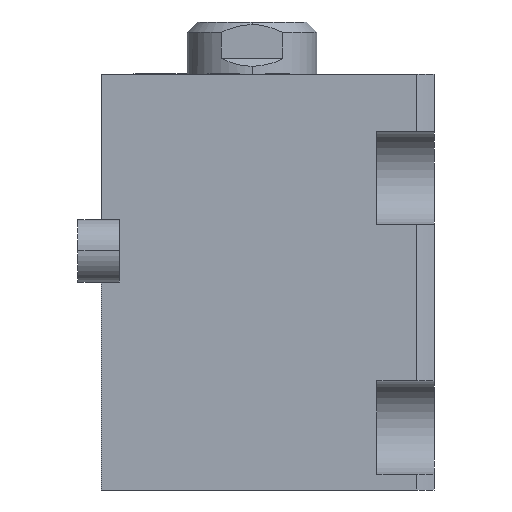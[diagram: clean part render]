
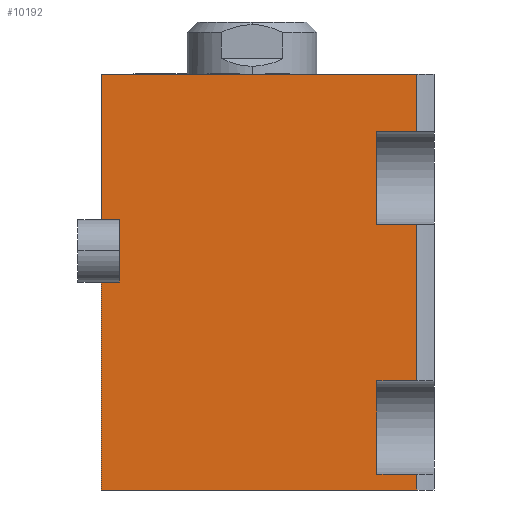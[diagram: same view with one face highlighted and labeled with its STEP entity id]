
A CAD part, left-side view. The second image highlights one B-rep face of the part: STEP entity #10192.
In plain terms, the highlighted planar face has unit normal (-1, 0, 0).
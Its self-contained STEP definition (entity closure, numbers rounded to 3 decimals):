
#29 = VERTEX_POINT ( 'NONE', #8458 ) ;
#158 = EDGE_LOOP ( 'NONE', ( #3144, #5027, #9578, #3182, #8567, #359, #7696, #8804, #2709, #3436, #4284, #1595, #9074, #6535, #1237, #4664 ) ) ;
#167 = CARTESIAN_POINT ( 'NONE',  ( -40., -21., 80. ) ) ;
#272 = VERTEX_POINT ( 'NONE', #1892 ) ;
#316 = CARTESIAN_POINT ( 'NONE',  ( -40., 32., 0. ) ) ;
#359 = ORIENTED_EDGE ( 'NONE', *, *, #1843, .T. ) ;
#474 = EDGE_CURVE ( 'NONE', #4851, #272, #7785, .T. ) ;
#533 = PLANE ( 'NONE',  #8676 ) ;
#560 = VERTEX_POINT ( 'NONE', #316 ) ;
#637 = CARTESIAN_POINT ( 'NONE',  ( -40., 28.5, 40. ) ) ;
#696 = LINE ( 'NONE', #6903, #6765 ) ;
#794 = LINE ( 'NONE', #4638, #9026 ) ;
#799 = LINE ( 'NONE', #8552, #4736 ) ;
#851 = EDGE_CURVE ( 'NONE', #560, #1351, #696, .T. ) ;
#886 = VERTEX_POINT ( 'NONE', #5979 ) ;
#987 = LINE ( 'NONE', #8548, #9480 ) ;
#1175 = CARTESIAN_POINT ( 'NONE',  ( -40., 28.5, 80. ) ) ;
#1180 = CARTESIAN_POINT ( 'NONE',  ( -40., 32., 52. ) ) ;
#1237 = ORIENTED_EDGE ( 'NONE', *, *, #5657, .F. ) ;
#1287 = VECTOR ( 'NONE', #9997, 1000. ) ;
#1338 = DIRECTION ( 'NONE',  ( 0., 1., 0. ) ) ;
#1351 = VERTEX_POINT ( 'NONE', #4200 ) ;
#1369 = EDGE_CURVE ( 'NONE', #6665, #8766, #5484, .T. ) ;
#1438 = VERTEX_POINT ( 'NONE', #7967 ) ;
#1595 = ORIENTED_EDGE ( 'NONE', *, *, #5480, .T. ) ;
#1724 = VECTOR ( 'NONE', #9910, 1000. ) ;
#1743 = CARTESIAN_POINT ( 'NONE',  ( -40., -28.639, 51. ) ) ;
#1843 = EDGE_CURVE ( 'NONE', #9164, #5551, #799, .T. ) ;
#1892 = CARTESIAN_POINT ( 'NONE',  ( -40., -28.639, 69. ) ) ;
#1947 = DIRECTION ( 'NONE',  ( 0., 0., -1. ) ) ;
#2372 = VECTOR ( 'NONE', #2931, 1000. ) ;
#2428 = DIRECTION ( 'NONE',  ( 0., 0., -1. ) ) ;
#2709 = ORIENTED_EDGE ( 'NONE', *, *, #3297, .F. ) ;
#2892 = VECTOR ( 'NONE', #2428, 1000. ) ;
#2931 = DIRECTION ( 'NONE',  ( 0., -1., 0. ) ) ;
#3144 = ORIENTED_EDGE ( 'NONE', *, *, #474, .F. ) ;
#3182 = ORIENTED_EDGE ( 'NONE', *, *, #1369, .T. ) ;
#3251 = CARTESIAN_POINT ( 'NONE',  ( -40., 32., 80. ) ) ;
#3297 = EDGE_CURVE ( 'NONE', #5592, #1351, #7646, .T. ) ;
#3362 = CARTESIAN_POINT ( 'NONE',  ( -40., 32., 40. ) ) ;
#3393 = VECTOR ( 'NONE', #8573, 1000. ) ;
#3436 = ORIENTED_EDGE ( 'NONE', *, *, #10282, .T. ) ;
#3451 = CARTESIAN_POINT ( 'NONE',  ( -40., 32., 3. ) ) ;
#3524 = DIRECTION ( 'NONE',  ( 0., 0., -1. ) ) ;
#3535 = VECTOR ( 'NONE', #1947, 1000. ) ;
#3538 = CARTESIAN_POINT ( 'NONE',  ( -40., -21., 51. ) ) ;
#3572 = EDGE_CURVE ( 'NONE', #6338, #29, #794, .T. ) ;
#3602 = VECTOR ( 'NONE', #4075, 1000. ) ;
#3659 = CARTESIAN_POINT ( 'NONE',  ( -40., 32., 69. ) ) ;
#3799 = LINE ( 'NONE', #3451, #1724 ) ;
#4060 = DIRECTION ( 'NONE',  ( 0., 0., 1. ) ) ;
#4075 = DIRECTION ( 'NONE',  ( 0., 0., -1. ) ) ;
#4134 = EDGE_CURVE ( 'NONE', #8354, #8534, #9753, .T. ) ;
#4179 = CARTESIAN_POINT ( 'NONE',  ( -40., 32., 80. ) ) ;
#4200 = CARTESIAN_POINT ( 'NONE',  ( -40., -28.639, 0. ) ) ;
#4210 = CARTESIAN_POINT ( 'NONE',  ( -40., 28.5, 52. ) ) ;
#4284 = ORIENTED_EDGE ( 'NONE', *, *, #3572, .F. ) ;
#4286 = DIRECTION ( 'NONE',  ( 0., 0., -1. ) ) ;
#4340 = EDGE_CURVE ( 'NONE', #8354, #10338, #9262, .T. ) ;
#4467 = DIRECTION ( 'NONE',  ( 0., 0., -1. ) ) ;
#4638 = CARTESIAN_POINT ( 'NONE',  ( -40., -21., 80. ) ) ;
#4660 = EDGE_CURVE ( 'NONE', #886, #6665, #6591, .T. ) ;
#4664 = ORIENTED_EDGE ( 'NONE', *, *, #9336, .T. ) ;
#4736 = VECTOR ( 'NONE', #8407, 1000. ) ;
#4787 = FACE_OUTER_BOUND ( 'NONE', #158, .T. ) ;
#4851 = VERTEX_POINT ( 'NONE', #6481 ) ;
#4865 = EDGE_CURVE ( 'NONE', #9164, #8766, #10142, .T. ) ;
#5027 = ORIENTED_EDGE ( 'NONE', *, *, #8327, .F. ) ;
#5103 = LINE ( 'NONE', #3251, #6993 ) ;
#5478 = VECTOR ( 'NONE', #3524, 1000. ) ;
#5480 = EDGE_CURVE ( 'NONE', #6338, #10338, #6192, .T. ) ;
#5484 = LINE ( 'NONE', #6944, #3393 ) ;
#5551 = VERTEX_POINT ( 'NONE', #3362 ) ;
#5592 = VERTEX_POINT ( 'NONE', #6415 ) ;
#5657 = EDGE_CURVE ( 'NONE', #1438, #8534, #5947, .T. ) ;
#5761 = CARTESIAN_POINT ( 'NONE',  ( -40., 32., 51. ) ) ;
#5947 = LINE ( 'NONE', #167, #3602 ) ;
#5979 = CARTESIAN_POINT ( 'NONE',  ( -40., 32., 80. ) ) ;
#6192 = LINE ( 'NONE', #6521, #8091 ) ;
#6319 = VECTOR ( 'NONE', #4286, 1000. ) ;
#6338 = VERTEX_POINT ( 'NONE', #7223 ) ;
#6403 = DIRECTION ( 'NONE',  ( 0., -1., 0. ) ) ;
#6415 = CARTESIAN_POINT ( 'NONE',  ( -40., -28.639, 3. ) ) ;
#6426 = DIRECTION ( 'NONE',  ( 0., -1., 0. ) ) ;
#6481 = CARTESIAN_POINT ( 'NONE',  ( -40., -28.639, 80. ) ) ;
#6521 = CARTESIAN_POINT ( 'NONE',  ( -40., 32., 21. ) ) ;
#6535 = ORIENTED_EDGE ( 'NONE', *, *, #4134, .T. ) ;
#6587 = LINE ( 'NONE', #3659, #2372 ) ;
#6591 = LINE ( 'NONE', #4179, #6319 ) ;
#6665 = VERTEX_POINT ( 'NONE', #1180 ) ;
#6740 = DIRECTION ( 'NONE',  ( 0., 0., -1. ) ) ;
#6765 = VECTOR ( 'NONE', #8597, 1000. ) ;
#6900 = CARTESIAN_POINT ( 'NONE',  ( -40., -28.639, 21. ) ) ;
#6903 = CARTESIAN_POINT ( 'NONE',  ( -40., 32., 0. ) ) ;
#6944 = CARTESIAN_POINT ( 'NONE',  ( -40., 32., 52. ) ) ;
#6993 = VECTOR ( 'NONE', #6426, 1000. ) ;
#7038 = CARTESIAN_POINT ( 'NONE',  ( -40., -28.639, -220. ) ) ;
#7223 = CARTESIAN_POINT ( 'NONE',  ( -40., -21., 21. ) ) ;
#7471 = CARTESIAN_POINT ( 'NONE',  ( -40., -28.639, -220. ) ) ;
#7646 = LINE ( 'NONE', #7038, #5478 ) ;
#7657 = DIRECTION ( 'NONE',  ( 1., 0., 0. ) ) ;
#7696 = ORIENTED_EDGE ( 'NONE', *, *, #9821, .T. ) ;
#7785 = LINE ( 'NONE', #8850, #3535 ) ;
#7967 = CARTESIAN_POINT ( 'NONE',  ( -40., -21., 69. ) ) ;
#8091 = VECTOR ( 'NONE', #6403, 1000. ) ;
#8327 = EDGE_CURVE ( 'NONE', #886, #4851, #5103, .T. ) ;
#8354 = VERTEX_POINT ( 'NONE', #1743 ) ;
#8407 = DIRECTION ( 'NONE',  ( 0., 1., 0. ) ) ;
#8458 = CARTESIAN_POINT ( 'NONE',  ( -40., -21., 3. ) ) ;
#8534 = VERTEX_POINT ( 'NONE', #3538 ) ;
#8548 = CARTESIAN_POINT ( 'NONE',  ( -40., 32., 80. ) ) ;
#8552 = CARTESIAN_POINT ( 'NONE',  ( -40., 32., 40. ) ) ;
#8567 = ORIENTED_EDGE ( 'NONE', *, *, #4865, .F. ) ;
#8573 = DIRECTION ( 'NONE',  ( 0., -1., 0. ) ) ;
#8597 = DIRECTION ( 'NONE',  ( 0., -1., 0. ) ) ;
#8676 = AXIS2_PLACEMENT_3D ( 'NONE', #10090, #7657, #1338 ) ;
#8766 = VERTEX_POINT ( 'NONE', #4210 ) ;
#8804 = ORIENTED_EDGE ( 'NONE', *, *, #851, .T. ) ;
#8850 = CARTESIAN_POINT ( 'NONE',  ( -40., -28.639, -220. ) ) ;
#9026 = VECTOR ( 'NONE', #6740, 1000. ) ;
#9074 = ORIENTED_EDGE ( 'NONE', *, *, #4340, .F. ) ;
#9164 = VERTEX_POINT ( 'NONE', #637 ) ;
#9262 = LINE ( 'NONE', #7471, #2892 ) ;
#9336 = EDGE_CURVE ( 'NONE', #1438, #272, #6587, .T. ) ;
#9480 = VECTOR ( 'NONE', #4467, 1000. ) ;
#9578 = ORIENTED_EDGE ( 'NONE', *, *, #4660, .T. ) ;
#9753 = LINE ( 'NONE', #5761, #1287 ) ;
#9821 = EDGE_CURVE ( 'NONE', #5551, #560, #987, .T. ) ;
#9891 = VECTOR ( 'NONE', #4060, 1000. ) ;
#9910 = DIRECTION ( 'NONE',  ( 0., 1., 0. ) ) ;
#9997 = DIRECTION ( 'NONE',  ( 0., 1., 0. ) ) ;
#10090 = CARTESIAN_POINT ( 'NONE',  ( -40., 32., 80. ) ) ;
#10142 = LINE ( 'NONE', #1175, #9891 ) ;
#10192 = ADVANCED_FACE ( 'NONE', ( #4787 ), #533, .F. ) ;
#10282 = EDGE_CURVE ( 'NONE', #5592, #29, #3799, .T. ) ;
#10338 = VERTEX_POINT ( 'NONE', #6900 ) ;
